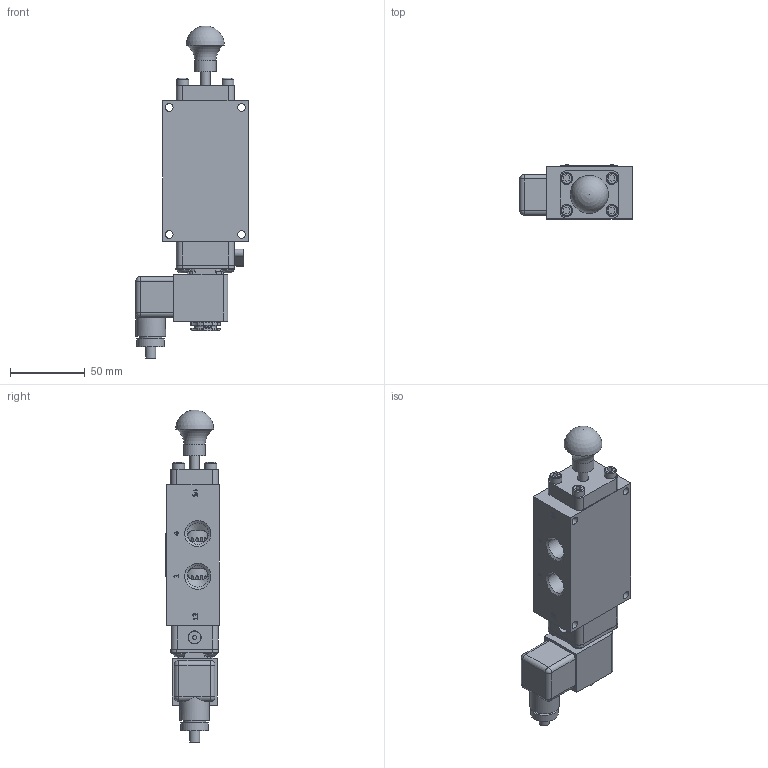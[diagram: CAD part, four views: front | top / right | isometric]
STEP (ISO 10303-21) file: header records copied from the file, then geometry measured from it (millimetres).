
FILE_DESCRIPTION(/* description */ (''),/* implementation_level */ '2;1');
FILE_NAME(/* name */ 'ESO3TOCOSZ.stp',/* time_stamp */ '2026-08-06T08:44:01-04:00',/* author */ ('rmckenna'),/* organization */ (''),/* preprocessor_version */ 'ST-DEVELOPER v20.1',/* originating_system */ 'Autodesk Inventor 2026',/* authorisation */ '');
FILE_SCHEMA (('AUTOMOTIVE_DESIGN { 1 0 10303 214 3 1 1 }'));
Products named in the file (1): Part40
Bounding box: 75.02 x 36.27 x 221.9 mm (x, y, z)
Volume: 249126.5 mm3; surface area: 80684.8 mm2
Topology: 2 solids, 35 shells, 1679 faces, 4186 edges, 2649 vertices
Faces by surface type: plane 745, cylinder 437, cone 247, bspline 123, torus 116, sphere 11
Full cylindrical faces by diameter (mm): 1.168 x10, 1.3 x1, 1.397 x1, 1.5 x1, 2.032 x8, 2.07 x2, 2.261 x2, 2.35 x4, 2.5 x1, 2.778 x2, 2.8 x1, 3 x4, 3.048 x2, 3.175 x1, 3.4 x1, 3.683 x11, 3.912 x3, 4.191 x2, 4.394 x1, 4.826 x8, 4.978 x1, 5.105 x4, 5.15 x4, 5.156 x12, 5.5 x1, 6.35 x4, 6.65 x1, 6.731 x1, 7.29 x1, 7.671 x1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
Entity records: 56727 total; most frequent: CARTESIAN_POINT 15128, ORIENTED_EDGE 8328, DIRECTION 8127, EDGE_CURVE 4164, AXIS2_PLACEMENT_3D 3005, VERTEX_POINT 2648, LINE 2117, VECTOR 2117
